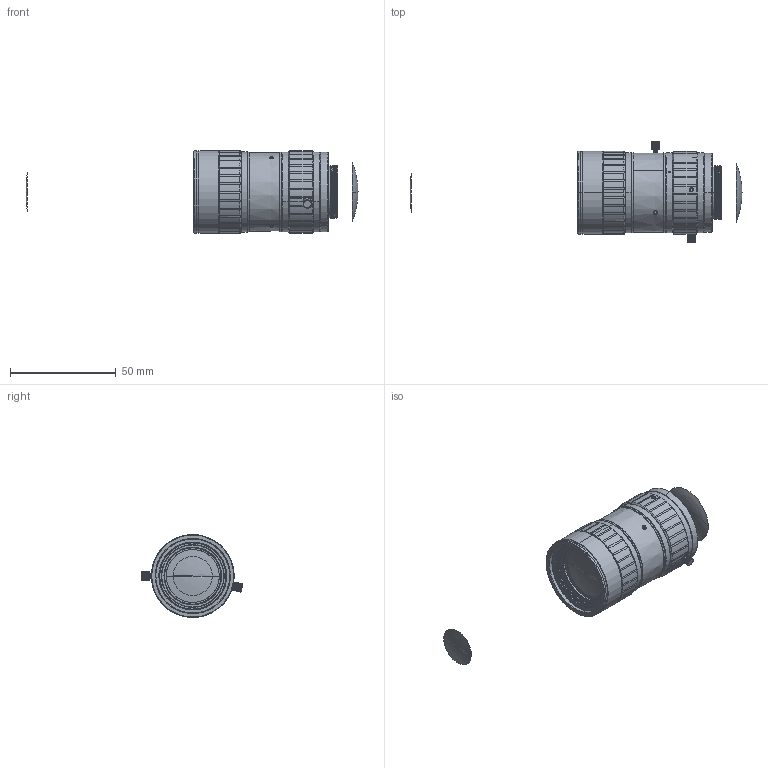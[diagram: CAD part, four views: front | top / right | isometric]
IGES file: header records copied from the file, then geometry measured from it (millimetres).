
Start section: SolidWorks IGES file using analytic representation for surfaces
Global section: file name: 2HF:\产品\产品图\90本公司\MJ9943xx12\MJ994318120\装配\总装\QM994318121总装\QM994318121总装.IGS; native system: SolidWorks 2018; preprocessor: SolidWorks 2018; author: hai; date: 240111.140339; units: millimetre
Bounding box: 157.3 x 48.18 x 39.2 mm (x, y, z)
Surface area: 45914.2 mm2 (no closed solid volume)
Topology: 0 solids, 0 shells, 1576 faces, 18560 edges, 18532 vertices
Faces by surface type: revolution 971, bspline 605
